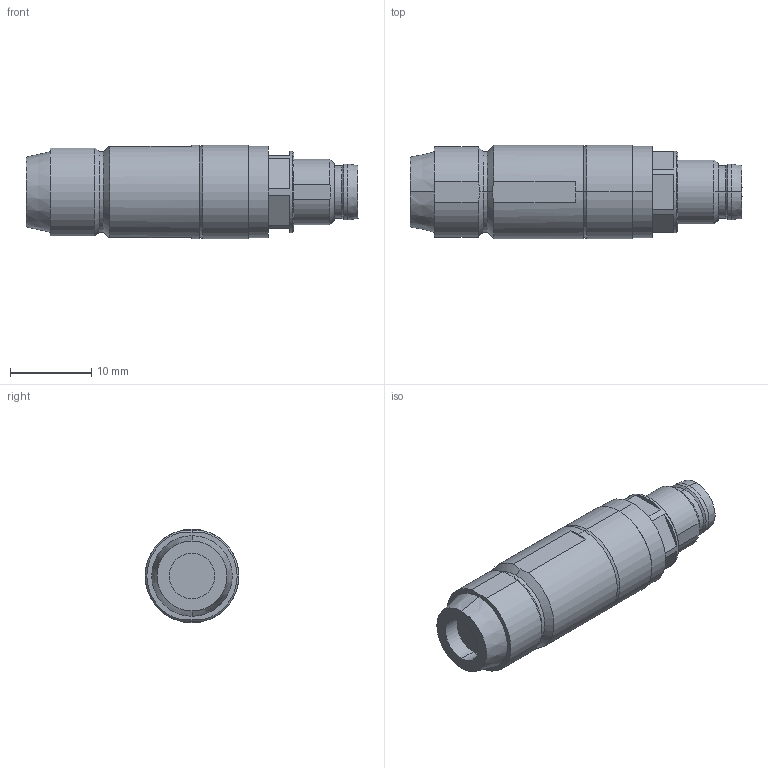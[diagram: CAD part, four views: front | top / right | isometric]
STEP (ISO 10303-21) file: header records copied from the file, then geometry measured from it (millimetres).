
FILE_DESCRIPTION((''),'2;1');
FILE_NAME('R412026789','2024-01-22T14:08:16',('THD3HC'),(''),'CREO PARAMETRIC BY PTC INC, 2020044','CREO PARAMETRIC BY PTC INC, 2020044','');
FILE_SCHEMA(('CONFIG_CONTROL_DESIGN','SHAPE_APPEARANCE_LAYERS_GROUPS'));
Length unit declared in the file: millimetre
Products named in the file (1): R412026789
Bounding box: 40.8 x 11.5 x 11.5 mm (x, y, z)
Volume: 3267.6 mm3; surface area: 1865.3 mm2
Topology: 1 solids, 1 shells, 101 faces, 259 edges, 174 vertices
Faces by surface type: plane 39, cylinder 38, cone 16, bspline 8
Entity records: 4826 total; most frequent: CARTESIAN_POINT 842, DIRECTION 565, ORIENTED_EDGE 518, PRESENTATION_STYLE_ASSIGNMENT 309, STYLED_ITEM 260, CURVE_STYLE 259, EDGE_CURVE 259, AXIS2_PLACEMENT_3D 229
